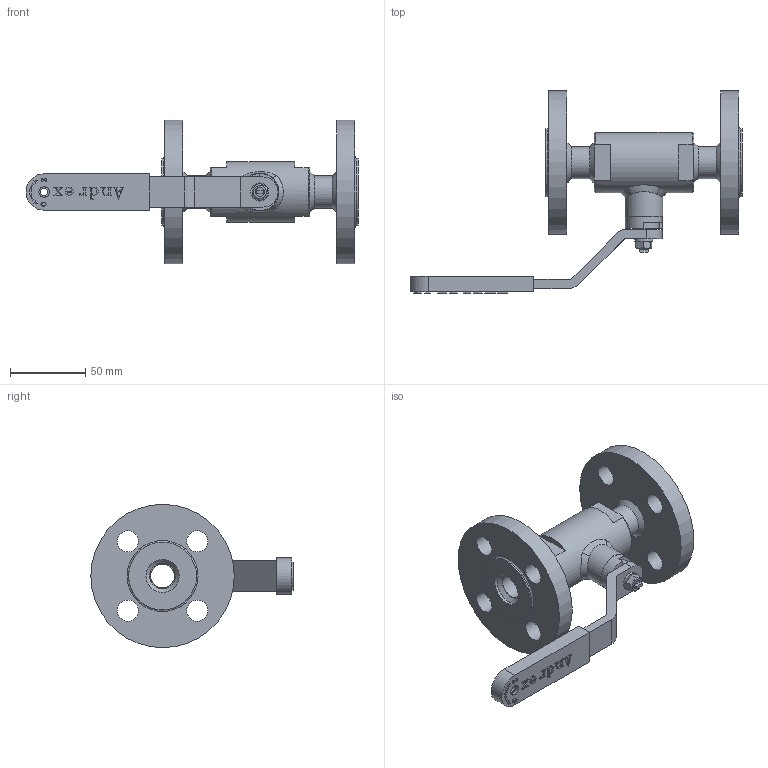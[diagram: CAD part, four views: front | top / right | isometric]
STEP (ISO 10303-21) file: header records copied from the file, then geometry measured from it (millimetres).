
FILE_DESCRIPTION(/* description */ (''),/* implementation_level */ '2;1');
FILE_NAME(/* name */ 'R:\Dokumenty_konstrukcyjne_INVENTOR\000_Zlozenie\15.41k.000.B1-10-40.00.stp',/* time_stamp */ '2022-09-19T11:12:35+02:00',/* author */ ('maat'),/* organization */ (''),/* preprocessor_version */ 'ST-DEVELOPER v15.6',/* originating_system */ 'Autodesk Inventor 2015',/* authorisation */ '');
FILE_SCHEMA (('AUTOMOTIVE_DESIGN { 1 0 10303 214 3 1 1 }'));
Length unit declared in the file: centimetre
Products named in the file (1): 15.41k.000.B1-10-40.00
Bounding box: 220 x 134 x 95 mm (x, y, z)
Volume: 266476.1 mm3; surface area: 80478.4 mm2
Topology: 1 solids, 26 shells, 593 faces, 1568 edges, 1025 vertices
Faces by surface type: plane 427, cylinder 102, cone 37, torus 14, sphere 7, bspline 6
Full cylindrical faces by diameter (mm): 2.236 x1, 3 x3, 4 x2, 5 x2, 6 x2, 6.4 x1, 7 x2, 11 x2, 11.6 x1, 12 x2, 14 x8, 15.9 x4, 16 x1, 16.1 x2, 17.5 x2, 20 x1, 20.1 x1, 20.5 x1, 21.3 x6, 22 x6, 24 x2, 24.5 x1, 25 x1, 28 x1, 28.376 x1, 30 x1, 30.5 x1, 40 x1, 45 x2, 95 x2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
Entity records: 19963 total; most frequent: CARTESIAN_POINT 4917, ORIENTED_EDGE 2904, DIRECTION 2823, EDGE_CURVE 1433, LINE 1051, VECTOR 1051, VERTEX_POINT 990, AXIS2_PLACEMENT_3D 886
